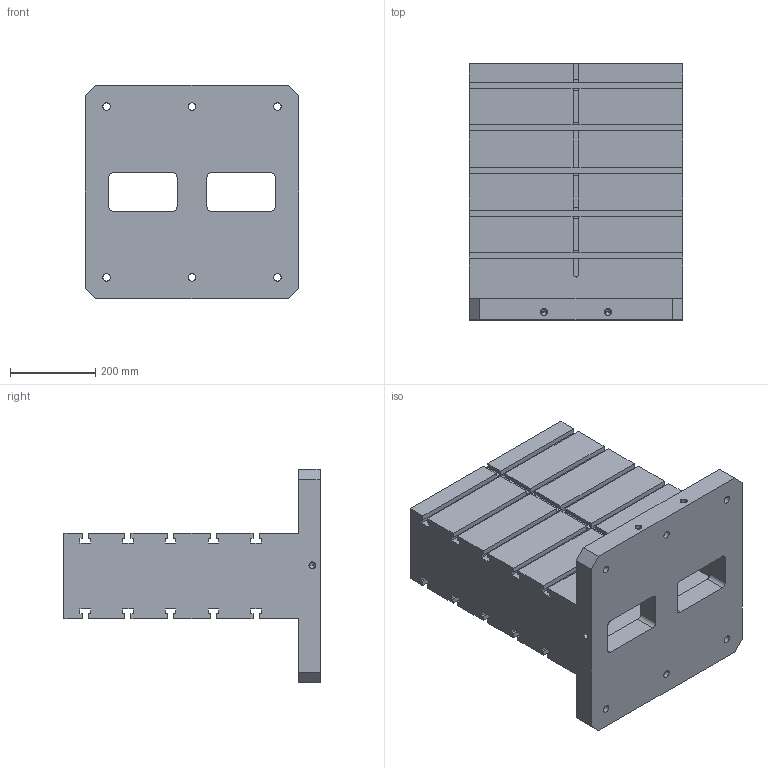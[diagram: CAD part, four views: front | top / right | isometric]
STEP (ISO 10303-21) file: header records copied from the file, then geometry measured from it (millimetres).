
FILE_DESCRIPTION((''),'2;1');
FILE_NAME('FG_WH_TOMB_RCTSLNP003','2026-05-20T11:56:01',('Admin'),(''),'CREO PARAMETRIC BY PTC INC, 2025010','CREO PARAMETRIC BY PTC INC, 2025010','');
FILE_SCHEMA(('CONFIG_CONTROL_DESIGN'));
Length unit declared in the file: millimetre
Products named in the file (1): FG_WH_TOMB_RCTSLNP003
Bounding box: 500 x 600 x 500 mm (x, y, z)
Volume: 40261995.5 mm3; surface area: 2365014.5 mm2
Topology: 1 solids, 5 shells, 259 faces, 734 edges, 487 vertices
Faces by surface type: plane 185, cylinder 68, cone 6
Entity records: 8405 total; most frequent: CARTESIAN_POINT 1475, ORIENTED_EDGE 1440, DIRECTION 1392, EDGE_CURVE 728, VECTOR 584, LINE 584, VERTEX_POINT 487, AXIS2_PLACEMENT_3D 404
